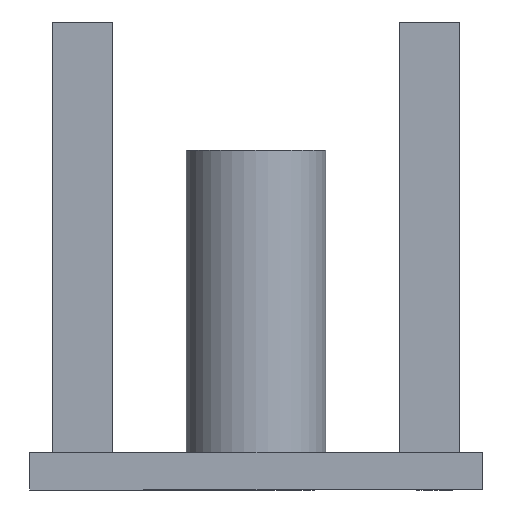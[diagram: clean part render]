
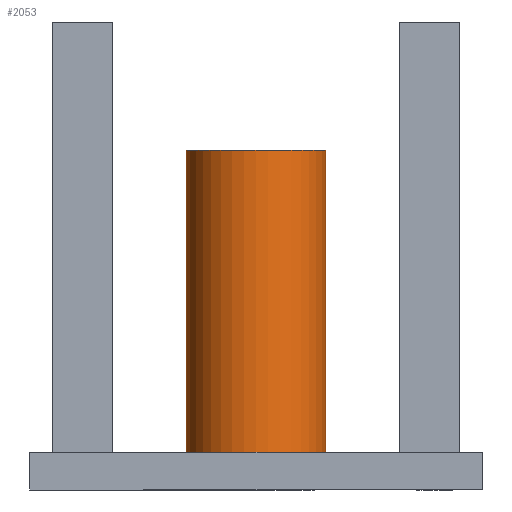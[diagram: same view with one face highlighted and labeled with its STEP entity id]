
A CAD part, left-side view. The second image highlights one B-rep face of the part: STEP entity #2053.
In plain terms, the highlighted cylindrical face has radius 9.25 mm (diameter 18.5 mm), a full revolution.
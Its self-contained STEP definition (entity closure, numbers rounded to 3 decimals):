
#72 = PLANE('',#73);
#73 = AXIS2_PLACEMENT_3D('',#74,#75,#76);
#74 = CARTESIAN_POINT('',(-50.,30.,5.));
#75 = DIRECTION('',(0.,0.,-1.));
#76 = DIRECTION('',(1.,0.,0.));
#833 = EDGE_CURVE('',#834,#834,#836,.T.);
#834 = VERTEX_POINT('',#835);
#835 = CARTESIAN_POINT('',(-25.25,0.,5.));
#836 = SURFACE_CURVE('',#837,(#842,#853),.PCURVE_S1.);
#837 = CIRCLE('',#838,9.25);
#838 = AXIS2_PLACEMENT_3D('',#839,#840,#841);
#839 = CARTESIAN_POINT('',(-34.5,0.,5.));
#840 = DIRECTION('',(-0.,0.,1.));
#841 = DIRECTION('',(1.,0.,0.));
#842 = PCURVE('',#72,#843);
#843 = DEFINITIONAL_REPRESENTATION('',(#844),#852);
#844 = ( BOUNDED_CURVE() B_SPLINE_CURVE(2,(#845,#846,#847,#848,#849,#850
,#851),.UNSPECIFIED.,.T.,.F.) B_SPLINE_CURVE_WITH_KNOTS((1,2,2,2,2,1),(
    -2.094,0.,2.094,4.189,6.283,
8.378),.UNSPECIFIED.) CURVE() GEOMETRIC_REPRESENTATION_ITEM() 
RATIONAL_B_SPLINE_CURVE((1.,0.5,1.,0.5,1.,0.5,1.)) REPRESENTATION_ITEM(
  '') );
#845 = CARTESIAN_POINT('',(24.75,30.));
#846 = CARTESIAN_POINT('',(24.75,13.979));
#847 = CARTESIAN_POINT('',(10.875,21.989));
#848 = CARTESIAN_POINT('',(-3.,30.));
#849 = CARTESIAN_POINT('',(10.875,38.011));
#850 = CARTESIAN_POINT('',(24.75,46.021));
#851 = CARTESIAN_POINT('',(24.75,30.));
#852 = ( GEOMETRIC_REPRESENTATION_CONTEXT(2) 
PARAMETRIC_REPRESENTATION_CONTEXT() REPRESENTATION_CONTEXT('2D SPACE',''
  ) );
#853 = PCURVE('',#854,#859);
#854 = CYLINDRICAL_SURFACE('',#855,9.25);
#855 = AXIS2_PLACEMENT_3D('',#856,#857,#858);
#856 = CARTESIAN_POINT('',(-34.5,0.,45.));
#857 = DIRECTION('',(-0.,0.,1.));
#858 = DIRECTION('',(1.,0.,0.));
#859 = DEFINITIONAL_REPRESENTATION('',(#860),#864);
#860 = LINE('',#861,#862);
#861 = CARTESIAN_POINT('',(-6.283,-40.));
#862 = VECTOR('',#863,1.);
#863 = DIRECTION('',(1.,-0.));
#864 = ( GEOMETRIC_REPRESENTATION_CONTEXT(2) 
PARAMETRIC_REPRESENTATION_CONTEXT() REPRESENTATION_CONTEXT('2D SPACE',''
  ) );
#2053 = ADVANCED_FACE('',(#2054),#854,.T.);
#2054 = FACE_BOUND('',#2055,.F.);
#2055 = EDGE_LOOP('',(#2056,#2085,#2106,#2107));
#2056 = ORIENTED_EDGE('',*,*,#2057,.F.);
#2057 = EDGE_CURVE('',#2058,#2058,#2060,.T.);
#2058 = VERTEX_POINT('',#2059);
#2059 = CARTESIAN_POINT('',(-25.25,0.,45.));
#2060 = SURFACE_CURVE('',#2061,(#2066,#2073),.PCURVE_S1.);
#2061 = CIRCLE('',#2062,9.25);
#2062 = AXIS2_PLACEMENT_3D('',#2063,#2064,#2065);
#2063 = CARTESIAN_POINT('',(-34.5,0.,45.));
#2064 = DIRECTION('',(0.,0.,-1.));
#2065 = DIRECTION('',(1.,0.,0.));
#2066 = PCURVE('',#854,#2067);
#2067 = DEFINITIONAL_REPRESENTATION('',(#2068),#2072);
#2068 = LINE('',#2069,#2070);
#2069 = CARTESIAN_POINT('',(-0.,0.));
#2070 = VECTOR('',#2071,1.);
#2071 = DIRECTION('',(-1.,0.));
#2072 = ( GEOMETRIC_REPRESENTATION_CONTEXT(2) 
PARAMETRIC_REPRESENTATION_CONTEXT() REPRESENTATION_CONTEXT('2D SPACE',''
  ) );
#2073 = PCURVE('',#2074,#2079);
#2074 = PLANE('',#2075);
#2075 = AXIS2_PLACEMENT_3D('',#2076,#2077,#2078);
#2076 = CARTESIAN_POINT('',(-34.5,0.,45.));
#2077 = DIRECTION('',(0.,0.,-1.));
#2078 = DIRECTION('',(1.,0.,0.));
#2079 = DEFINITIONAL_REPRESENTATION('',(#2080),#2084);
#2080 = CIRCLE('',#2081,9.25);
#2081 = AXIS2_PLACEMENT_2D('',#2082,#2083);
#2082 = CARTESIAN_POINT('',(0.,0.));
#2083 = DIRECTION('',(1.,0.));
#2084 = ( GEOMETRIC_REPRESENTATION_CONTEXT(2) 
PARAMETRIC_REPRESENTATION_CONTEXT() REPRESENTATION_CONTEXT('2D SPACE',''
  ) );
#2085 = ORIENTED_EDGE('',*,*,#2086,.T.);
#2086 = EDGE_CURVE('',#2058,#834,#2087,.T.);
#2087 = SEAM_CURVE('',#2088,(#2092,#2099),.PCURVE_S1.);
#2088 = LINE('',#2089,#2090);
#2089 = CARTESIAN_POINT('',(-25.25,0.,45.));
#2090 = VECTOR('',#2091,1.);
#2091 = DIRECTION('',(0.,0.,-1.));
#2092 = PCURVE('',#854,#2093);
#2093 = DEFINITIONAL_REPRESENTATION('',(#2094),#2098);
#2094 = LINE('',#2095,#2096);
#2095 = CARTESIAN_POINT('',(-6.283,0.));
#2096 = VECTOR('',#2097,1.);
#2097 = DIRECTION('',(-0.,-1.));
#2098 = ( GEOMETRIC_REPRESENTATION_CONTEXT(2) 
PARAMETRIC_REPRESENTATION_CONTEXT() REPRESENTATION_CONTEXT('2D SPACE',''
  ) );
#2099 = PCURVE('',#854,#2100);
#2100 = DEFINITIONAL_REPRESENTATION('',(#2101),#2105);
#2101 = LINE('',#2102,#2103);
#2102 = CARTESIAN_POINT('',(-0.,0.));
#2103 = VECTOR('',#2104,1.);
#2104 = DIRECTION('',(-0.,-1.));
#2105 = ( GEOMETRIC_REPRESENTATION_CONTEXT(2) 
PARAMETRIC_REPRESENTATION_CONTEXT() REPRESENTATION_CONTEXT('2D SPACE',''
  ) );
#2106 = ORIENTED_EDGE('',*,*,#833,.F.);
#2107 = ORIENTED_EDGE('',*,*,#2086,.F.);
